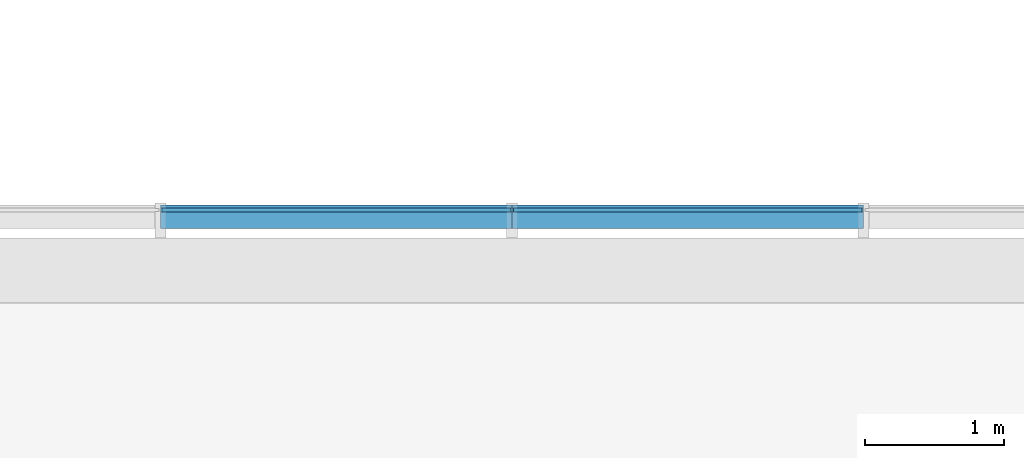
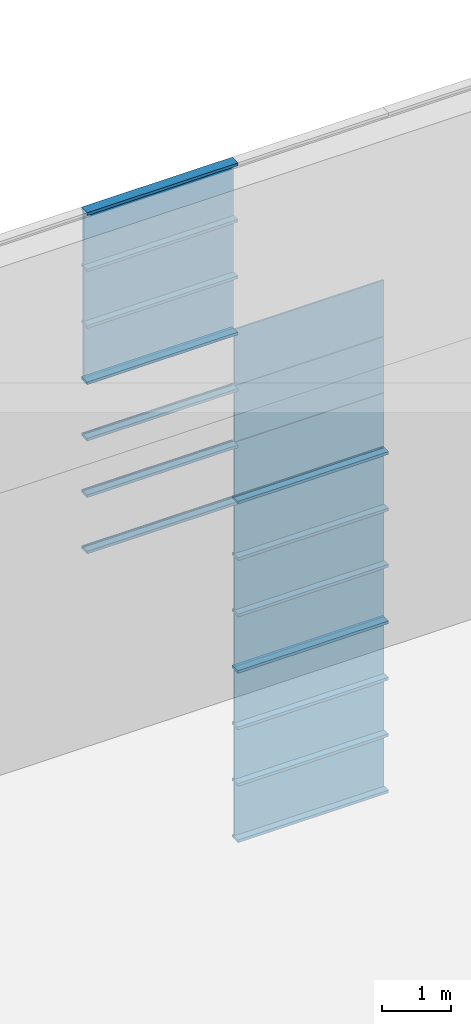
# One storey, part 45 of 105: 29 building element parts, 4 elements without a shape of their own.
"""IFC4 building model written with IfcOpenShell, lengths in millimetres."""

from ifc_helpers import new_model, entity, si_unit, converted_unit, derived_unit, direction, frame, origin_with_axes, place, context, subcontext, project, spatial, triangles, material, element, aggregate, save


model = new_model("IFC4")

# Units and contexts
model_context = context("Model", 3, precision=1e-05, world=origin_with_axes(), true_north=direction((0.0, 1.0)))
body_context = subcontext(model_context, "Body", "Model", "MODEL_VIEW")
ifc_project = project(units=[si_unit("LENGTHUNIT", "METRE", prefix="MILLI"), si_unit("AREAUNIT", "SQUARE_METRE"), si_unit("VOLUMEUNIT", "CUBIC_METRE"), converted_unit("PLANEANGLEUNIT", "DEGREE", entity("IfcLengthMeasure", 0.017453), si_unit("PLANEANGLEUNIT", "RADIAN"), dimensions=[0, 0, 0, 0, 0, 0, 0]), si_unit("SOLIDANGLEUNIT", "STERADIAN"), si_unit("MASSUNIT", "GRAM"), si_unit("TIMEUNIT", "SECOND"), si_unit("THERMODYNAMICTEMPERATUREUNIT", "DEGREE_CELSIUS"), si_unit("LUMINOUSINTENSITYUNIT", "LUMEN"), si_unit("POWERUNIT", "WATT"), derived_unit("THERMALTRANSMITTANCEUNIT", [(si_unit("POWERUNIT", "WATT"), 1), (si_unit("THERMODYNAMICTEMPERATUREUNIT", "KELVIN"), -1), (si_unit("AREAUNIT", "SQUARE_METRE"), -1)])], contexts=[model_context])

# Site, building, storey
site_placement = place(None, origin_with_axes())
site = spatial("IfcSite", under=ifc_project, at=site_placement, Name="Default Site", CompositionType="ELEMENT")
building_placement = place(site_placement, origin_with_axes())
building = spatial("IfcBuilding", under=site, at=building_placement, Name="Default Building", CompositionType="ELEMENT")
storey_placement = place(building_placement, origin_with_axes())
storey = spatial("IfcBuildingStorey", under=building, at=storey_placement, Name="OG - Story", CompositionType="ELEMENT", Elevation=0.0)

# Curtain wall, building element parts
curtain_wall_1_placement = place(storey_placement, origin_with_axes())
curtain_wall_1 = element("IfcCurtainWall", 1, at=curtain_wall_1_placement, inside=storey, Name="Fassade-004", PredefinedType="NOTDEFINED")
ifc_material_1 = material(Name="Normalglas")
building_element_part_1_placement = place(curtain_wall_1_placement, frame((33014.549222, -4389.262838, 0.0), z_axis=(0.0, 0.0, 1.0), x_axis=(1.0, 0.0, 0.0)))
building_element_part_1 = element("IfcBuildingElementPart", 2, at=building_element_part_1_placement, material=ifc_material_1, Name="Normalglas", PredefinedType="NOTDEFINED", context=body_context, shape_type="Tessellation", body=[
    triangles([(16411.053, -14.999, 995.0), (16411.053, 15.0, 995.0), (13904.737, 15.0, 995.0), (13904.737, -14.999, 995.0), (16411.053, -14.999, 5.0), (16411.053, 15.0, 5.0), (13904.737, 15.0, 5.0), (13904.737, -14.999, 5.0)], [[1, 2, 3], [1, 3, 4], [5, 6, 2], [5, 2, 1], [2, 6, 7], [2, 7, 3], [4, 3, 7], [4, 7, 8], [1, 4, 8], [1, 8, 5], [8, 7, 6], [8, 6, 5]], closed=False),
])
building_element_part_2_placement = place(curtain_wall_1_placement, frame((33014.549222, -4389.262838, 0.0), z_axis=(0.0, 0.0, 1.0), x_axis=(1.0, 0.0, 0.0)))
building_element_part_2 = element("IfcBuildingElementPart", 3, at=building_element_part_2_placement, material=ifc_material_1, Name="Normalglas", PredefinedType="NOTDEFINED", context=body_context, shape_type="Tessellation", body=[
    triangles([(16411.053, -14.999, 1995.0), (16411.053, 15.0, 1995.0), (13904.737, 15.0, 1995.0), (13904.737, -14.999, 1995.0), (16411.053, -14.999, 1005.0), (16411.053, 15.0, 1005.0), (13904.737, 15.0, 1005.0), (13904.737, -14.999, 1005.0)], [[1, 2, 3], [1, 3, 4], [5, 6, 2], [5, 2, 1], [2, 6, 7], [2, 7, 3], [4, 3, 7], [4, 7, 8], [1, 4, 8], [1, 8, 5], [8, 7, 6], [8, 6, 5]], closed=False),
])
building_element_part_3_placement = place(curtain_wall_1_placement, frame((33014.549222, -4389.262838, 0.0), z_axis=(0.0, 0.0, 1.0), x_axis=(1.0, 0.0, 0.0)))
building_element_part_3 = element("IfcBuildingElementPart", 4, at=building_element_part_3_placement, material=ifc_material_1, Name="Normalglas", PredefinedType="NOTDEFINED", context=body_context, shape_type="Tessellation", body=[
    triangles([(16411.053, -14.999, 2995.0), (16411.053, 15.0, 2995.0), (13904.737, 15.0, 2995.0), (13904.737, -14.999, 2995.0), (16411.053, -14.999, 2005.0), (16411.053, 15.0, 2005.0), (13904.737, 15.0, 2005.0), (13904.737, -14.999, 2005.0)], [[1, 2, 3], [1, 3, 4], [5, 6, 2], [5, 2, 1], [2, 6, 7], [2, 7, 3], [4, 3, 7], [4, 7, 8], [1, 4, 8], [1, 8, 5], [8, 7, 6], [8, 6, 5]], closed=False),
])
ifc_material_2 = material(Name="Blech")
building_element_part_4_placement = place(curtain_wall_1_placement, frame((33014.549222, -4389.262838, 0.0), z_axis=(0.0, 0.0, 1.0), x_axis=(1.0, 0.0, 0.0)))
building_element_part_4 = element("IfcBuildingElementPart", 5, at=building_element_part_4_placement, material=ifc_material_2, Name="Blech", PredefinedType="NOTDEFINED", context=body_context, shape_type="Tessellation", body=[
    triangles([(16421.053, 35.0, -24.999), (16421.053, 35.0, 25.0), (16421.053, 15.0, 25.0), (16421.053, 15.0, 5.0), (16421.053, -14.999, 5.0), (16421.053, -132.999, 25.0), (16421.053, -132.999, -24.999), (16421.053, -14.999, 25.0), (13894.737, -14.999, 5.0), (13894.737, -14.999, 25.0), (13894.737, -132.999, 25.0), (13894.737, -132.999, -24.999), (13894.737, 35.0, -24.999), (13894.737, 35.0, 25.0), (13894.737, 15.0, 25.0), (13894.737, 15.0, 5.0)], [[1, 2, 3], [1, 3, 4], [1, 4, 5], [1, 5, 6], [1, 6, 7], [8, 6, 5], [5, 9, 10], [5, 10, 8], [10, 11, 6], [10, 6, 8], [11, 12, 7], [11, 7, 6], [12, 13, 1], [12, 1, 7], [13, 14, 2], [13, 2, 1], [3, 2, 14], [3, 14, 15], [15, 16, 4], [15, 4, 3], [4, 16, 9], [4, 9, 5], [15, 16, 13], [13, 16, 9], [13, 9, 11], [11, 9, 10], [13, 11, 12], [15, 13, 14]], closed=False),
])
building_element_part_5_placement = place(curtain_wall_1_placement, frame((33014.549222, -4389.262838, 0.0), z_axis=(0.0, 0.0, 1.0), x_axis=(1.0, 0.0, 0.0)))
building_element_part_5 = element("IfcBuildingElementPart", 6, at=building_element_part_5_placement, material=ifc_material_2, Name="Blech", PredefinedType="NOTDEFINED", context=body_context, shape_type="Tessellation", body=[
    triangles([(16421.053, 35.0, 975.0), (16421.053, 15.0, 975.0), (16421.053, 35.0, 1025.0), (16421.053, 15.0, 995.0), (16421.053, 15.0, 1005.0), (16421.053, -14.999, 995.0), (16421.053, -14.999, 1005.0), (16421.053, -14.999, 1025.0), (16421.053, -14.999, 975.0), (16421.053, -132.999, 975.0), (16421.053, -132.999, 1025.0), (16421.053, 15.0, 1025.0), (13894.737, -14.999, 995.0), (13894.737, 15.0, 995.0), (13894.737, 15.0, 975.0), (13894.737, 35.0, 975.0), (13894.737, 35.0, 1025.0), (13894.737, 15.0, 1025.0), (13894.737, 15.0, 1005.0), (13894.737, -14.999, 1005.0), (13894.737, -14.999, 1025.0), (13894.737, -132.999, 1025.0), (13894.737, -132.999, 975.0), (13894.737, -14.999, 975.0)], [[1, 2, 3], [3, 2, 4], [3, 4, 5], [5, 4, 6], [5, 6, 7], [8, 9, 10], [8, 10, 11], [3, 5, 12], [6, 13, 14], [6, 14, 4], [4, 14, 15], [4, 15, 2], [15, 16, 1], [15, 1, 2], [1, 16, 17], [1, 17, 3], [18, 12, 3], [18, 3, 17], [12, 18, 19], [12, 19, 5], [7, 5, 19], [7, 19, 20], [8, 7, 20], [8, 20, 21], [8, 21, 22], [8, 22, 11], [11, 22, 23], [11, 23, 10], [9, 10, 23], [9, 23, 24], [9, 24, 13], [9, 13, 6], [17, 18, 16], [16, 18, 19], [16, 19, 14], [14, 19, 20], [14, 20, 13], [24, 21, 22], [24, 22, 23], [16, 14, 15]], closed=False),
])
building_element_part_6_placement = place(curtain_wall_1_placement, frame((33014.549222, -4389.262838, 0.0), z_axis=(0.0, 0.0, 1.0), x_axis=(1.0, 0.0, 0.0)))
building_element_part_6 = element("IfcBuildingElementPart", 7, at=building_element_part_6_placement, material=ifc_material_2, Name="Blech", PredefinedType="NOTDEFINED", context=body_context, shape_type="Tessellation", body=[
    triangles([(16421.053, 35.0, 1975.0), (16421.053, 15.0, 1975.0), (16421.053, 35.0, 2025.0), (16421.053, 15.0, 1995.0), (16421.053, 15.0, 2005.0), (16421.053, -14.999, 1995.0), (16421.053, -14.999, 2005.0), (16421.053, -14.999, 2025.0), (16421.053, -14.999, 1975.0), (16421.053, -132.999, 1975.0), (16421.053, -132.999, 2025.0), (16421.053, 15.0, 2025.0), (13894.737, -14.999, 1995.0), (13894.737, 15.0, 1995.0), (13894.737, 15.0, 1975.0), (13894.737, 35.0, 1975.0), (13894.737, 35.0, 2025.0), (13894.737, 15.0, 2025.0), (13894.737, 15.0, 2005.0), (13894.737, -14.999, 2005.0), (13894.737, -14.999, 2025.0), (13894.737, -132.999, 2025.0), (13894.737, -132.999, 1975.0), (13894.737, -14.999, 1975.0)], [[1, 2, 3], [3, 2, 4], [3, 4, 5], [5, 4, 6], [5, 6, 7], [8, 9, 10], [8, 10, 11], [3, 5, 12], [6, 13, 14], [6, 14, 4], [4, 14, 15], [4, 15, 2], [15, 16, 1], [15, 1, 2], [1, 16, 17], [1, 17, 3], [18, 12, 3], [18, 3, 17], [12, 18, 19], [12, 19, 5], [7, 5, 19], [7, 19, 20], [8, 7, 20], [8, 20, 21], [8, 21, 22], [8, 22, 11], [11, 22, 23], [11, 23, 10], [9, 10, 23], [9, 23, 24], [9, 24, 13], [9, 13, 6], [17, 18, 16], [16, 18, 19], [16, 19, 14], [14, 19, 20], [14, 20, 13], [24, 21, 22], [24, 22, 23], [16, 14, 15]], closed=False),
])
building_element_part_7_placement = place(curtain_wall_1_placement, frame((33014.549222, -4389.262838, 0.0), z_axis=(0.0, 0.0, 1.0), x_axis=(1.0, 0.0, 0.0)))
building_element_part_7 = element("IfcBuildingElementPart", 8, at=building_element_part_7_placement, material=ifc_material_2, Name="Blech", PredefinedType="NOTDEFINED", context=body_context, shape_type="Tessellation", body=[
    triangles([(16421.053, 15.0, 2975.0), (16421.053, 15.0, 2995.0), (16421.053, 35.0, 3025.0), (16421.053, -14.999, 2995.0), (16421.053, -132.999, 2975.0), (16421.053, -14.999, 2975.0), (16421.053, -132.999, 3025.0), (16421.053, 35.0, 2975.0), (13894.737, -14.999, 2995.0), (13894.737, 15.0, 2995.0), (13894.737, 15.0, 2975.0), (13894.737, 35.0, 2975.0), (13894.737, 35.0, 3025.0), (13894.737, -132.999, 3025.0), (13894.737, -132.999, 2975.0), (13894.737, -14.999, 2975.0)], [[1, 2, 3], [3, 2, 4], [3, 4, 5], [5, 4, 6], [3, 5, 7], [1, 3, 8], [2, 4, 9], [2, 9, 10], [11, 1, 2], [11, 2, 10], [1, 11, 12], [1, 12, 8], [13, 3, 8], [13, 8, 12], [14, 7, 3], [14, 3, 13], [15, 5, 7], [15, 7, 14], [16, 6, 5], [16, 5, 15], [4, 6, 16], [4, 16, 9], [13, 12, 11], [13, 11, 10], [13, 10, 9], [13, 9, 15], [13, 15, 14], [16, 15, 9]], closed=False),
])
aggregate(curtain_wall_1, [building_element_part_1, building_element_part_2, building_element_part_3, building_element_part_4, building_element_part_5, building_element_part_6, building_element_part_7])

curtain_wall_2_placement = place(storey_placement, origin_with_axes())
curtain_wall_2 = element("IfcCurtainWall", 9, at=curtain_wall_2_placement, inside=storey, Name="Fassade-004", PredefinedType="NOTDEFINED")
building_element_part_8_placement = place(curtain_wall_2_placement, frame((33014.549222, -4389.262838, 3000.0), z_axis=(0.0, 0.0, 1.0), x_axis=(1.0, 0.0, 0.0)))
building_element_part_8 = element("IfcBuildingElementPart", 10, at=building_element_part_8_placement, material=ifc_material_1, Name="Normalglas", PredefinedType="NOTDEFINED", context=body_context, shape_type="Tessellation", body=[
    triangles([(16411.053, -14.999, 995.0), (16411.053, 15.0, 995.0), (13904.737, 15.0, 995.0), (13904.737, -14.999, 995.0), (16411.053, -14.999, 5.0), (16411.053, 15.0, 5.0), (13904.737, 15.0, 5.0), (13904.737, -14.999, 5.0)], [[1, 2, 3], [1, 3, 4], [5, 6, 2], [5, 2, 1], [2, 6, 7], [2, 7, 3], [4, 3, 7], [4, 7, 8], [1, 4, 8], [1, 8, 5], [8, 7, 6], [8, 6, 5]], closed=False),
])
building_element_part_9_placement = place(curtain_wall_2_placement, frame((33014.549222, -4389.262838, 3000.0), z_axis=(0.0, 0.0, 1.0), x_axis=(1.0, 0.0, 0.0)))
building_element_part_9 = element("IfcBuildingElementPart", 11, at=building_element_part_9_placement, material=ifc_material_1, Name="Normalglas", PredefinedType="NOTDEFINED", context=body_context, shape_type="Tessellation", body=[
    triangles([(16411.053, -14.999, 1995.0), (16411.053, 15.0, 1995.0), (13904.737, 15.0, 1995.0), (13904.737, -14.999, 1995.0), (16411.053, -14.999, 1005.0), (16411.053, 15.0, 1005.0), (13904.737, 15.0, 1005.0), (13904.737, -14.999, 1005.0)], [[1, 2, 3], [1, 3, 4], [5, 6, 2], [5, 2, 1], [2, 6, 7], [2, 7, 3], [4, 3, 7], [4, 7, 8], [1, 4, 8], [1, 8, 5], [8, 7, 6], [8, 6, 5]], closed=False),
])
building_element_part_10_placement = place(curtain_wall_2_placement, frame((33014.549222, -4389.262838, 3000.0), z_axis=(0.0, 0.0, 1.0), x_axis=(1.0, 0.0, 0.0)))
building_element_part_10 = element("IfcBuildingElementPart", 12, at=building_element_part_10_placement, material=ifc_material_1, Name="Normalglas", PredefinedType="NOTDEFINED", context=body_context, shape_type="Tessellation", body=[
    triangles([(16411.053, -14.999, 2995.0), (16411.053, 15.0, 2995.0), (13904.737, 15.0, 2995.0), (13904.737, -14.999, 2995.0), (16411.053, -14.999, 2005.0), (16411.053, 15.0, 2005.0), (13904.737, 15.0, 2005.0), (13904.737, -14.999, 2005.0)], [[1, 2, 3], [1, 3, 4], [5, 6, 2], [5, 2, 1], [2, 6, 7], [2, 7, 3], [4, 3, 7], [4, 7, 8], [1, 4, 8], [1, 8, 5], [8, 7, 6], [8, 6, 5]], closed=False),
])
building_element_part_11_placement = place(curtain_wall_2_placement, frame((33014.549222, -4389.262838, 3000.0), z_axis=(0.0, 0.0, 1.0), x_axis=(1.0, 0.0, 0.0)))
building_element_part_11 = element("IfcBuildingElementPart", 13, at=building_element_part_11_placement, material=ifc_material_2, Name="Blech", PredefinedType="NOTDEFINED", context=body_context, shape_type="Tessellation", body=[
    triangles([(16421.053, 35.0, -24.999), (16421.053, 35.0, 25.0), (16421.053, 15.0, 25.0), (16421.053, 15.0, 5.0), (16421.053, -14.999, 5.0), (16421.053, -132.999, 25.0), (16421.053, -132.999, -24.999), (16421.053, -14.999, 25.0), (13894.737, -14.999, 5.0), (13894.737, -14.999, 25.0), (13894.737, -132.999, 25.0), (13894.737, -132.999, -24.999), (13894.737, 35.0, -24.999), (13894.737, 35.0, 25.0), (13894.737, 15.0, 25.0), (13894.737, 15.0, 5.0)], [[1, 2, 3], [1, 3, 4], [1, 4, 5], [1, 5, 6], [1, 6, 7], [8, 6, 5], [5, 9, 10], [5, 10, 8], [10, 11, 6], [10, 6, 8], [11, 12, 7], [11, 7, 6], [12, 13, 1], [12, 1, 7], [13, 14, 2], [13, 2, 1], [3, 2, 14], [3, 14, 15], [15, 16, 4], [15, 4, 3], [4, 16, 9], [4, 9, 5], [15, 16, 13], [13, 16, 9], [13, 9, 11], [11, 9, 10], [13, 11, 12], [15, 13, 14]], closed=False),
])
building_element_part_12_placement = place(curtain_wall_2_placement, frame((33014.549222, -4389.262838, 3000.0), z_axis=(0.0, 0.0, 1.0), x_axis=(1.0, 0.0, 0.0)))
building_element_part_12 = element("IfcBuildingElementPart", 14, at=building_element_part_12_placement, material=ifc_material_2, Name="Blech", PredefinedType="NOTDEFINED", context=body_context, shape_type="Tessellation", body=[
    triangles([(16421.053, 35.0, 975.0), (16421.053, 15.0, 975.0), (16421.053, 35.0, 1025.0), (16421.053, 15.0, 995.0), (16421.053, 15.0, 1005.0), (16421.053, -14.999, 995.0), (16421.053, -14.999, 1005.0), (16421.053, -14.999, 1025.0), (16421.053, -14.999, 975.0), (16421.053, -132.999, 975.0), (16421.053, -132.999, 1025.0), (16421.053, 15.0, 1025.0), (13894.737, -14.999, 995.0), (13894.737, 15.0, 995.0), (13894.737, 15.0, 975.0), (13894.737, 35.0, 975.0), (13894.737, 35.0, 1025.0), (13894.737, 15.0, 1025.0), (13894.737, 15.0, 1005.0), (13894.737, -14.999, 1005.0), (13894.737, -14.999, 1025.0), (13894.737, -132.999, 1025.0), (13894.737, -132.999, 975.0), (13894.737, -14.999, 975.0)], [[1, 2, 3], [3, 2, 4], [3, 4, 5], [5, 4, 6], [5, 6, 7], [8, 9, 10], [8, 10, 11], [3, 5, 12], [6, 13, 14], [6, 14, 4], [4, 14, 15], [4, 15, 2], [15, 16, 1], [15, 1, 2], [1, 16, 17], [1, 17, 3], [18, 12, 3], [18, 3, 17], [12, 18, 19], [12, 19, 5], [7, 5, 19], [7, 19, 20], [8, 7, 20], [8, 20, 21], [8, 21, 22], [8, 22, 11], [11, 22, 23], [11, 23, 10], [9, 10, 23], [9, 23, 24], [9, 24, 13], [9, 13, 6], [17, 18, 16], [16, 18, 19], [16, 19, 14], [14, 19, 20], [14, 20, 13], [24, 21, 22], [24, 22, 23], [16, 14, 15]], closed=False),
])
building_element_part_13_placement = place(curtain_wall_2_placement, frame((33014.549222, -4389.262838, 3000.0), z_axis=(0.0, 0.0, 1.0), x_axis=(1.0, 0.0, 0.0)))
building_element_part_13 = element("IfcBuildingElementPart", 15, at=building_element_part_13_placement, material=ifc_material_2, Name="Blech", PredefinedType="NOTDEFINED", context=body_context, shape_type="Tessellation", body=[
    triangles([(16421.053, 35.0, 1975.0), (16421.053, 15.0, 1975.0), (16421.053, 35.0, 2025.0), (16421.053, 15.0, 1995.0), (16421.053, 15.0, 2005.0), (16421.053, -14.999, 1995.0), (16421.053, -14.999, 2005.0), (16421.053, -14.999, 2025.0), (16421.053, -14.999, 1975.0), (16421.053, -132.999, 1975.0), (16421.053, -132.999, 2025.0), (16421.053, 15.0, 2025.0), (13894.737, -14.999, 1995.0), (13894.737, 15.0, 1995.0), (13894.737, 15.0, 1975.0), (13894.737, 35.0, 1975.0), (13894.737, 35.0, 2025.0), (13894.737, 15.0, 2025.0), (13894.737, 15.0, 2005.0), (13894.737, -14.999, 2005.0), (13894.737, -14.999, 2025.0), (13894.737, -132.999, 2025.0), (13894.737, -132.999, 1975.0), (13894.737, -14.999, 1975.0)], [[1, 2, 3], [3, 2, 4], [3, 4, 5], [5, 4, 6], [5, 6, 7], [8, 9, 10], [8, 10, 11], [3, 5, 12], [6, 13, 14], [6, 14, 4], [4, 14, 15], [4, 15, 2], [15, 16, 1], [15, 1, 2], [1, 16, 17], [1, 17, 3], [18, 12, 3], [18, 3, 17], [12, 18, 19], [12, 19, 5], [7, 5, 19], [7, 19, 20], [8, 7, 20], [8, 20, 21], [8, 21, 22], [8, 22, 11], [11, 22, 23], [11, 23, 10], [9, 10, 23], [9, 23, 24], [9, 24, 13], [9, 13, 6], [17, 18, 16], [16, 18, 19], [16, 19, 14], [14, 19, 20], [14, 20, 13], [24, 21, 22], [24, 22, 23], [16, 14, 15]], closed=False),
])
building_element_part_14_placement = place(curtain_wall_2_placement, frame((33014.549222, -4389.262838, 3000.0), z_axis=(0.0, 0.0, 1.0), x_axis=(1.0, 0.0, 0.0)))
building_element_part_14 = element("IfcBuildingElementPart", 16, at=building_element_part_14_placement, material=ifc_material_2, Name="Blech", PredefinedType="NOTDEFINED", context=body_context, shape_type="Tessellation", body=[
    triangles([(16421.053, 15.0, 2975.0), (16421.053, 15.0, 2995.0), (16421.053, 35.0, 3025.0), (16421.053, -14.999, 2995.0), (16421.053, -132.999, 2975.0), (16421.053, -14.999, 2975.0), (16421.053, -132.999, 3025.0), (16421.053, 35.0, 2975.0), (13894.737, -14.999, 2995.0), (13894.737, 15.0, 2995.0), (13894.737, 15.0, 2975.0), (13894.737, 35.0, 2975.0), (13894.737, 35.0, 3025.0), (13894.737, -132.999, 3025.0), (13894.737, -132.999, 2975.0), (13894.737, -14.999, 2975.0)], [[1, 2, 3], [3, 2, 4], [3, 4, 5], [5, 4, 6], [3, 5, 7], [1, 3, 8], [2, 4, 9], [2, 9, 10], [11, 1, 2], [11, 2, 10], [1, 11, 12], [1, 12, 8], [13, 3, 8], [13, 8, 12], [14, 7, 3], [14, 3, 13], [15, 5, 7], [15, 7, 14], [16, 6, 5], [16, 5, 15], [4, 6, 16], [4, 16, 9], [13, 12, 11], [13, 11, 10], [13, 10, 9], [13, 9, 15], [13, 15, 14], [16, 15, 9]], closed=False),
])
aggregate(curtain_wall_2, [building_element_part_8, building_element_part_9, building_element_part_10, building_element_part_11, building_element_part_12, building_element_part_13, building_element_part_14])

curtain_wall_3_placement = place(storey_placement, origin_with_axes())
curtain_wall_3 = element("IfcCurtainWall", 17, at=curtain_wall_3_placement, inside=storey, Name="Fassade-004", PredefinedType="NOTDEFINED")
building_element_part_15_placement = place(curtain_wall_3_placement, frame((33014.549222, -4389.262838, 6000.0), z_axis=(0.0, 0.0, 1.0), x_axis=(1.0, 0.0, 0.0)))
building_element_part_15 = element("IfcBuildingElementPart", 18, at=building_element_part_15_placement, material=ifc_material_1, Name="Normalglas", PredefinedType="NOTDEFINED", context=body_context, shape_type="Tessellation", body=[
    triangles([(16411.053, -14.999, 995.0), (16411.053, 15.0, 995.0), (13904.737, 15.0, 995.0), (13904.737, -14.999, 995.0), (16411.053, -14.999, 5.0), (16411.053, 15.0, 5.0), (13904.737, 15.0, 5.0), (13904.737, -14.999, 5.0)], [[1, 2, 3], [1, 3, 4], [5, 6, 2], [5, 2, 1], [2, 6, 7], [2, 7, 3], [4, 3, 7], [4, 7, 8], [1, 4, 8], [1, 8, 5], [8, 7, 6], [8, 6, 5]], closed=False),
])
building_element_part_16_placement = place(curtain_wall_3_placement, frame((33014.549222, -4389.262838, 6000.0), z_axis=(0.0, 0.0, 1.0), x_axis=(1.0, 0.0, 0.0)))
building_element_part_16 = element("IfcBuildingElementPart", 19, at=building_element_part_16_placement, material=ifc_material_1, Name="Normalglas", PredefinedType="NOTDEFINED", context=body_context, shape_type="Tessellation", body=[
    triangles([(16411.053, -14.999, 1995.0), (16411.053, 15.0, 1995.0), (13904.737, 15.0, 1995.0), (13904.737, -14.999, 1995.0), (16411.053, -14.999, 1005.0), (16411.053, 15.0, 1005.0), (13904.737, 15.0, 1005.0), (13904.737, -14.999, 1005.0)], [[1, 2, 3], [1, 3, 4], [5, 6, 2], [5, 2, 1], [2, 6, 7], [2, 7, 3], [4, 3, 7], [4, 7, 8], [1, 4, 8], [1, 8, 5], [8, 7, 6], [8, 6, 5]], closed=False),
])
building_element_part_17_placement = place(curtain_wall_3_placement, frame((33014.549222, -4389.262838, 6000.0), z_axis=(0.0, 0.0, 1.0), x_axis=(1.0, 0.0, 0.0)))
building_element_part_17 = element("IfcBuildingElementPart", 20, at=building_element_part_17_placement, material=ifc_material_1, Name="Normalglas", PredefinedType="NOTDEFINED", context=body_context, shape_type="Tessellation", body=[
    triangles([(16411.053, -14.999, 2995.0), (16411.053, 15.0, 2995.0), (13904.737, 15.0, 2995.0), (13904.737, -14.999, 2995.0), (16411.053, -14.999, 2005.0), (16411.053, 15.0, 2005.0), (13904.737, 15.0, 2005.0), (13904.737, -14.999, 2005.0)], [[1, 2, 3], [1, 3, 4], [5, 6, 2], [5, 2, 1], [2, 6, 7], [2, 7, 3], [4, 3, 7], [4, 7, 8], [1, 4, 8], [1, 8, 5], [8, 7, 6], [8, 6, 5]], closed=False),
])
building_element_part_18_placement = place(curtain_wall_3_placement, frame((33014.549222, -4389.262838, 6000.0), z_axis=(0.0, 0.0, 1.0), x_axis=(1.0, 0.0, 0.0)))
building_element_part_18 = element("IfcBuildingElementPart", 21, at=building_element_part_18_placement, material=ifc_material_2, Name="Blech", PredefinedType="NOTDEFINED", context=body_context, shape_type="Tessellation", body=[
    triangles([(13894.737, 35.0, -24.999), (13894.737, 35.0, 25.0), (13894.737, 15.0, 25.0), (13894.737, 15.0, 5.0), (13894.737, -14.999, 5.0), (13894.737, -132.999, 25.0), (13894.737, -132.999, -24.999), (13894.737, -14.999, 25.0), (11368.421, -14.999, 5.0), (11368.421, -14.999, 25.0), (11368.421, -132.999, 25.0), (11368.421, -132.999, -24.999), (11368.421, 35.0, -24.999), (11368.421, 35.0, 25.0), (11368.421, 15.0, 25.0), (11368.421, 15.0, 5.0)], [[1, 2, 3], [1, 3, 4], [1, 4, 5], [1, 5, 6], [1, 6, 7], [8, 6, 5], [5, 9, 10], [5, 10, 8], [10, 11, 6], [10, 6, 8], [11, 12, 7], [11, 7, 6], [12, 13, 1], [12, 1, 7], [13, 14, 2], [13, 2, 1], [3, 2, 14], [3, 14, 15], [15, 16, 4], [15, 4, 3], [4, 16, 9], [4, 9, 5], [15, 16, 13], [13, 16, 9], [13, 9, 11], [11, 9, 10], [13, 11, 12], [15, 13, 14]], closed=False),
])
building_element_part_19_placement = place(curtain_wall_3_placement, frame((33014.549222, -4389.262838, 6000.0), z_axis=(0.0, 0.0, 1.0), x_axis=(1.0, 0.0, 0.0)))
building_element_part_19 = element("IfcBuildingElementPart", 22, at=building_element_part_19_placement, material=ifc_material_2, Name="Blech", PredefinedType="NOTDEFINED", context=body_context, shape_type="Tessellation", body=[
    triangles([(16421.053, 35.0, -24.999), (16421.053, 35.0, 25.0), (16421.053, 15.0, 25.0), (16421.053, 15.0, 5.0), (16421.053, -14.999, 5.0), (16421.053, -132.999, 25.0), (16421.053, -132.999, -24.999), (16421.053, -14.999, 25.0), (13894.737, -14.999, 5.0), (13894.737, -14.999, 25.0), (13894.737, -132.999, 25.0), (13894.737, -132.999, -24.999), (13894.737, 35.0, -24.999), (13894.737, 35.0, 25.0), (13894.737, 15.0, 25.0), (13894.737, 15.0, 5.0)], [[1, 2, 3], [1, 3, 4], [1, 4, 5], [1, 5, 6], [1, 6, 7], [8, 6, 5], [5, 9, 10], [5, 10, 8], [10, 11, 6], [10, 6, 8], [11, 12, 7], [11, 7, 6], [12, 13, 1], [12, 1, 7], [13, 14, 2], [13, 2, 1], [3, 2, 14], [3, 14, 15], [15, 16, 4], [15, 4, 3], [4, 16, 9], [4, 9, 5], [15, 16, 13], [13, 16, 9], [13, 9, 11], [11, 9, 10], [13, 11, 12], [15, 13, 14]], closed=False),
])
building_element_part_20_placement = place(curtain_wall_3_placement, frame((33014.549222, -4389.262838, 6000.0), z_axis=(0.0, 0.0, 1.0), x_axis=(1.0, 0.0, 0.0)))
building_element_part_20 = element("IfcBuildingElementPart", 23, at=building_element_part_20_placement, material=ifc_material_2, Name="Blech", PredefinedType="NOTDEFINED", context=body_context, shape_type="Tessellation", body=[
    triangles([(13894.737, 35.0, 975.0), (13894.737, 15.0, 975.0), (13894.737, 35.0, 1025.0), (13894.737, 15.0, 995.0), (13894.737, 15.0, 1005.0), (13894.737, -14.999, 995.0), (13894.737, -14.999, 1005.0), (13894.737, -14.999, 1025.0), (13894.737, -14.999, 975.0), (13894.737, -132.999, 975.0), (13894.737, -132.999, 1025.0), (13894.737, 15.0, 1025.0), (11368.421, -14.999, 995.0), (11368.421, 15.0, 995.0), (11368.421, 15.0, 975.0), (11368.421, 35.0, 975.0), (11368.421, 35.0, 1025.0), (11368.421, 15.0, 1025.0), (11368.421, 15.0, 1005.0), (11368.421, -14.999, 1005.0), (11368.421, -14.999, 1025.0), (11368.421, -132.999, 1025.0), (11368.421, -132.999, 975.0), (11368.421, -14.999, 975.0)], [[1, 2, 3], [3, 2, 4], [3, 4, 5], [5, 4, 6], [5, 6, 7], [8, 9, 10], [8, 10, 11], [3, 5, 12], [6, 13, 14], [6, 14, 4], [4, 14, 15], [4, 15, 2], [15, 16, 1], [15, 1, 2], [1, 16, 17], [1, 17, 3], [18, 12, 3], [18, 3, 17], [12, 18, 19], [12, 19, 5], [7, 5, 19], [7, 19, 20], [8, 7, 20], [8, 20, 21], [8, 21, 22], [8, 22, 11], [11, 22, 23], [11, 23, 10], [9, 10, 23], [9, 23, 24], [9, 24, 13], [9, 13, 6], [17, 18, 16], [16, 18, 19], [16, 19, 14], [14, 19, 20], [14, 20, 13], [24, 21, 22], [24, 22, 23], [16, 14, 15]], closed=False),
])
building_element_part_21_placement = place(curtain_wall_3_placement, frame((33014.549222, -4389.262838, 6000.0), z_axis=(0.0, 0.0, 1.0), x_axis=(1.0, 0.0, 0.0)))
building_element_part_21 = element("IfcBuildingElementPart", 24, at=building_element_part_21_placement, material=ifc_material_2, Name="Blech", PredefinedType="NOTDEFINED", context=body_context, shape_type="Tessellation", body=[
    triangles([(13894.737, 35.0, 1975.0), (13894.737, 15.0, 1975.0), (13894.737, 35.0, 2025.0), (13894.737, 15.0, 1995.0), (13894.737, 15.0, 2005.0), (13894.737, -14.999, 1995.0), (13894.737, -14.999, 2005.0), (13894.737, -14.999, 2025.0), (13894.737, -14.999, 1975.0), (13894.737, -132.999, 1975.0), (13894.737, -132.999, 2025.0), (13894.737, 15.0, 2025.0), (11368.421, -14.999, 1995.0), (11368.421, 15.0, 1995.0), (11368.421, 15.0, 1975.0), (11368.421, 35.0, 1975.0), (11368.421, 35.0, 2025.0), (11368.421, 15.0, 2025.0), (11368.421, 15.0, 2005.0), (11368.421, -14.999, 2005.0), (11368.421, -14.999, 2025.0), (11368.421, -132.999, 2025.0), (11368.421, -132.999, 1975.0), (11368.421, -14.999, 1975.0)], [[1, 2, 3], [3, 2, 4], [3, 4, 5], [5, 4, 6], [5, 6, 7], [8, 9, 10], [8, 10, 11], [3, 5, 12], [6, 13, 14], [6, 14, 4], [4, 14, 15], [4, 15, 2], [15, 16, 1], [15, 1, 2], [1, 16, 17], [1, 17, 3], [18, 12, 3], [18, 3, 17], [12, 18, 19], [12, 19, 5], [7, 5, 19], [7, 19, 20], [8, 7, 20], [8, 20, 21], [8, 21, 22], [8, 22, 11], [11, 22, 23], [11, 23, 10], [9, 10, 23], [9, 23, 24], [9, 24, 13], [9, 13, 6], [17, 18, 16], [16, 18, 19], [16, 19, 14], [14, 19, 20], [14, 20, 13], [24, 21, 22], [24, 22, 23], [16, 14, 15]], closed=False),
])
building_element_part_22_placement = place(curtain_wall_3_placement, frame((33014.549222, -4389.262838, 6000.0), z_axis=(0.0, 0.0, 1.0), x_axis=(1.0, 0.0, 0.0)))
building_element_part_22 = element("IfcBuildingElementPart", 25, at=building_element_part_22_placement, material=ifc_material_2, Name="Blech", PredefinedType="NOTDEFINED", context=body_context, shape_type="Tessellation", body=[
    triangles([(13894.737, 15.0, 2975.0), (13894.737, 15.0, 2995.0), (13894.737, 35.0, 3025.0), (13894.737, -14.999, 2995.0), (13894.737, -132.999, 2975.0), (13894.737, -14.999, 2975.0), (13894.737, -132.999, 3025.0), (13894.737, 35.0, 2975.0), (11368.421, -14.999, 2995.0), (11368.421, 15.0, 2995.0), (11368.421, 15.0, 2975.0), (11368.421, 35.0, 2975.0), (11368.421, 35.0, 3025.0), (11368.421, -132.999, 3025.0), (11368.421, -132.999, 2975.0), (11368.421, -14.999, 2975.0)], [[1, 2, 3], [3, 2, 4], [3, 4, 5], [5, 4, 6], [3, 5, 7], [1, 3, 8], [2, 4, 9], [2, 9, 10], [11, 1, 2], [11, 2, 10], [1, 11, 12], [1, 12, 8], [13, 3, 8], [13, 8, 12], [14, 7, 3], [14, 3, 13], [15, 5, 7], [15, 7, 14], [16, 6, 5], [16, 5, 15], [4, 6, 16], [4, 16, 9], [13, 12, 11], [13, 11, 10], [13, 10, 9], [13, 9, 15], [13, 15, 14], [16, 15, 9]], closed=False),
])
aggregate(curtain_wall_3, [building_element_part_15, building_element_part_16, building_element_part_17, building_element_part_18, building_element_part_19, building_element_part_20, building_element_part_21, building_element_part_22])

curtain_wall_4_placement = place(storey_placement, origin_with_axes())
curtain_wall_4 = element("IfcCurtainWall", 26, at=curtain_wall_4_placement, inside=storey, Name="Fassade-004", PredefinedType="NOTDEFINED")
building_element_part_23_placement = place(curtain_wall_4_placement, frame((33014.549222, -4389.262838, 9000.0), z_axis=(0.0, 0.0, 1.0), x_axis=(1.0, 0.0, 0.0)))
building_element_part_23 = element("IfcBuildingElementPart", 27, at=building_element_part_23_placement, material=ifc_material_1, Name="Normalglas", PredefinedType="NOTDEFINED", context=body_context, shape_type="Tessellation", body=[
    triangles([(13884.737, -14.999, 995.0), (13884.737, 15.0, 995.0), (11378.421, 15.0, 995.0), (11378.421, -14.999, 995.0), (13884.737, -14.999, 5.0), (13884.737, 15.0, 5.0), (11378.421, 15.0, 5.0), (11378.421, -14.999, 5.0)], [[1, 2, 3], [1, 3, 4], [5, 6, 2], [5, 2, 1], [2, 6, 7], [2, 7, 3], [4, 3, 7], [4, 7, 8], [1, 4, 8], [1, 8, 5], [8, 7, 6], [8, 6, 5]], closed=False),
])
building_element_part_24_placement = place(curtain_wall_4_placement, frame((33014.549222, -4389.262838, 9000.0), z_axis=(0.0, 0.0, 1.0), x_axis=(1.0, 0.0, 0.0)))
building_element_part_24 = element("IfcBuildingElementPart", 28, at=building_element_part_24_placement, material=ifc_material_1, Name="Normalglas", PredefinedType="NOTDEFINED", context=body_context, shape_type="Tessellation", body=[
    triangles([(13884.737, -14.999, 1995.0), (13884.737, 15.0, 1995.0), (11378.421, 15.0, 1995.0), (11378.421, -14.999, 1995.0), (13884.737, -14.999, 1005.0), (13884.737, 15.0, 1005.0), (11378.421, 15.0, 1005.0), (11378.421, -14.999, 1005.0)], [[1, 2, 3], [1, 3, 4], [5, 6, 2], [5, 2, 1], [2, 6, 7], [2, 7, 3], [4, 3, 7], [4, 7, 8], [1, 4, 8], [1, 8, 5], [8, 7, 6], [8, 6, 5]], closed=False),
])
building_element_part_25_placement = place(curtain_wall_4_placement, frame((33014.549222, -4389.262838, 9000.0), z_axis=(0.0, 0.0, 1.0), x_axis=(1.0, 0.0, 0.0)))
building_element_part_25 = element("IfcBuildingElementPart", 29, at=building_element_part_25_placement, material=ifc_material_1, Name="Normalglas", PredefinedType="NOTDEFINED", context=body_context, shape_type="Tessellation", body=[
    triangles([(13884.737, -14.999, 2995.0), (13884.737, 15.0, 2995.0), (11378.421, 15.0, 2995.0), (11378.421, -14.999, 2995.0), (13884.737, -14.999, 2005.0), (13884.737, 15.0, 2005.0), (11378.421, 15.0, 2005.0), (11378.421, -14.999, 2005.0)], [[1, 2, 3], [1, 3, 4], [5, 6, 2], [5, 2, 1], [2, 6, 7], [2, 7, 3], [4, 3, 7], [4, 7, 8], [1, 4, 8], [1, 8, 5], [8, 7, 6], [8, 6, 5]], closed=False),
])
building_element_part_26_placement = place(curtain_wall_4_placement, frame((33014.549222, -4389.262838, 9000.0), z_axis=(0.0, 0.0, 1.0), x_axis=(1.0, 0.0, 0.0)))
building_element_part_26 = element("IfcBuildingElementPart", 30, at=building_element_part_26_placement, material=ifc_material_2, Name="Blech", PredefinedType="NOTDEFINED", context=body_context, shape_type="Tessellation", body=[
    triangles([(13894.737, 35.0, -24.999), (13894.737, 35.0, 25.0), (13894.737, 15.0, 25.0), (13894.737, 15.0, 5.0), (13894.737, -14.999, 5.0), (13894.737, -132.999, 25.0), (13894.737, -132.999, -24.999), (13894.737, -14.999, 25.0), (11368.421, -14.999, 5.0), (11368.421, -14.999, 25.0), (11368.421, -132.999, 25.0), (11368.421, -132.999, -24.999), (11368.421, 35.0, -24.999), (11368.421, 35.0, 25.0), (11368.421, 15.0, 25.0), (11368.421, 15.0, 5.0)], [[1, 2, 3], [1, 3, 4], [1, 4, 5], [1, 5, 6], [1, 6, 7], [8, 6, 5], [5, 9, 10], [5, 10, 8], [10, 11, 6], [10, 6, 8], [11, 12, 7], [11, 7, 6], [12, 13, 1], [12, 1, 7], [13, 14, 2], [13, 2, 1], [3, 2, 14], [3, 14, 15], [15, 16, 4], [15, 4, 3], [4, 16, 9], [4, 9, 5], [15, 16, 13], [13, 16, 9], [13, 9, 11], [11, 9, 10], [13, 11, 12], [15, 13, 14]], closed=False),
])
building_element_part_27_placement = place(curtain_wall_4_placement, frame((33014.549222, -4389.262838, 9000.0), z_axis=(0.0, 0.0, 1.0), x_axis=(1.0, 0.0, 0.0)))
building_element_part_27 = element("IfcBuildingElementPart", 31, at=building_element_part_27_placement, material=ifc_material_2, Name="Blech", PredefinedType="NOTDEFINED", context=body_context, shape_type="Tessellation", body=[
    triangles([(13894.737, 35.0, 975.0), (13894.737, 15.0, 975.0), (13894.737, 35.0, 1025.0), (13894.737, 15.0, 995.0), (13894.737, 15.0, 1005.0), (13894.737, -14.999, 995.0), (13894.737, -14.999, 1005.0), (13894.737, -14.999, 1025.0), (13894.737, -14.999, 975.0), (13894.737, -132.999, 975.0), (13894.737, -132.999, 1025.0), (13894.737, 15.0, 1025.0), (11368.421, -14.999, 995.0), (11368.421, 15.0, 995.0), (11368.421, 15.0, 975.0), (11368.421, 35.0, 975.0), (11368.421, 35.0, 1025.0), (11368.421, 15.0, 1025.0), (11368.421, 15.0, 1005.0), (11368.421, -14.999, 1005.0), (11368.421, -14.999, 1025.0), (11368.421, -132.999, 1025.0), (11368.421, -132.999, 975.0), (11368.421, -14.999, 975.0)], [[1, 2, 3], [3, 2, 4], [3, 4, 5], [5, 4, 6], [5, 6, 7], [8, 9, 10], [8, 10, 11], [3, 5, 12], [6, 13, 14], [6, 14, 4], [4, 14, 15], [4, 15, 2], [15, 16, 1], [15, 1, 2], [1, 16, 17], [1, 17, 3], [18, 12, 3], [18, 3, 17], [12, 18, 19], [12, 19, 5], [7, 5, 19], [7, 19, 20], [8, 7, 20], [8, 20, 21], [8, 21, 22], [8, 22, 11], [11, 22, 23], [11, 23, 10], [9, 10, 23], [9, 23, 24], [9, 24, 13], [9, 13, 6], [17, 18, 16], [16, 18, 19], [16, 19, 14], [14, 19, 20], [14, 20, 13], [24, 21, 22], [24, 22, 23], [16, 14, 15]], closed=False),
])
building_element_part_28_placement = place(curtain_wall_4_placement, frame((33014.549222, -4389.262838, 9000.0), z_axis=(0.0, 0.0, 1.0), x_axis=(1.0, 0.0, 0.0)))
building_element_part_28 = element("IfcBuildingElementPart", 32, at=building_element_part_28_placement, material=ifc_material_2, Name="Blech", PredefinedType="NOTDEFINED", context=body_context, shape_type="Tessellation", body=[
    triangles([(13894.737, 35.0, 1975.0), (13894.737, 15.0, 1975.0), (13894.737, 35.0, 2025.0), (13894.737, 15.0, 1995.0), (13894.737, 15.0, 2005.0), (13894.737, -14.999, 1995.0), (13894.737, -14.999, 2005.0), (13894.737, -14.999, 2025.0), (13894.737, -14.999, 1975.0), (13894.737, -132.999, 1975.0), (13894.737, -132.999, 2025.0), (13894.737, 15.0, 2025.0), (11368.421, -14.999, 1995.0), (11368.421, 15.0, 1995.0), (11368.421, 15.0, 1975.0), (11368.421, 35.0, 1975.0), (11368.421, 35.0, 2025.0), (11368.421, 15.0, 2025.0), (11368.421, 15.0, 2005.0), (11368.421, -14.999, 2005.0), (11368.421, -14.999, 2025.0), (11368.421, -132.999, 2025.0), (11368.421, -132.999, 1975.0), (11368.421, -14.999, 1975.0)], [[1, 2, 3], [3, 2, 4], [3, 4, 5], [5, 4, 6], [5, 6, 7], [8, 9, 10], [8, 10, 11], [3, 5, 12], [6, 13, 14], [6, 14, 4], [4, 14, 15], [4, 15, 2], [15, 16, 1], [15, 1, 2], [1, 16, 17], [1, 17, 3], [18, 12, 3], [18, 3, 17], [12, 18, 19], [12, 19, 5], [7, 5, 19], [7, 19, 20], [8, 7, 20], [8, 20, 21], [8, 21, 22], [8, 22, 11], [11, 22, 23], [11, 23, 10], [9, 10, 23], [9, 23, 24], [9, 24, 13], [9, 13, 6], [17, 18, 16], [16, 18, 19], [16, 19, 14], [14, 19, 20], [14, 20, 13], [24, 21, 22], [24, 22, 23], [16, 14, 15]], closed=False),
])
building_element_part_29_placement = place(curtain_wall_4_placement, frame((33014.549222, -4389.262838, 9000.0), z_axis=(0.0, 0.0, 1.0), x_axis=(1.0, 0.0, 0.0)))
building_element_part_29 = element("IfcBuildingElementPart", 33, at=building_element_part_29_placement, material=ifc_material_2, Name="Blech", PredefinedType="NOTDEFINED", context=body_context, shape_type="Tessellation", body=[
    triangles([(13894.737, 15.0, 2975.0), (13894.737, 15.0, 2995.0), (13894.737, 35.0, 3025.0), (13894.737, -14.999, 2995.0), (13894.737, -132.999, 2975.0), (13894.737, -14.999, 2975.0), (13894.737, -132.999, 3025.0), (13894.737, 35.0, 2975.0), (11368.421, -14.999, 2995.0), (11368.421, 15.0, 2995.0), (11368.421, 15.0, 2975.0), (11368.421, 35.0, 2975.0), (11368.421, 35.0, 3025.0), (11368.421, -132.999, 3025.0), (11368.421, -132.999, 2975.0), (11368.421, -14.999, 2975.0)], [[1, 2, 3], [3, 2, 4], [3, 4, 5], [5, 4, 6], [3, 5, 7], [1, 3, 8], [2, 4, 9], [2, 9, 10], [11, 1, 2], [11, 2, 10], [1, 11, 12], [1, 12, 8], [13, 3, 8], [13, 8, 12], [14, 7, 3], [14, 3, 13], [15, 5, 7], [15, 7, 14], [16, 6, 5], [16, 5, 15], [4, 6, 16], [4, 16, 9], [13, 12, 11], [13, 11, 10], [13, 10, 9], [13, 9, 15], [13, 15, 14], [16, 15, 9]], closed=False),
])
aggregate(curtain_wall_4, [building_element_part_23, building_element_part_24, building_element_part_25, building_element_part_26, building_element_part_27, building_element_part_28, building_element_part_29])

save(model, "model.ifc")
